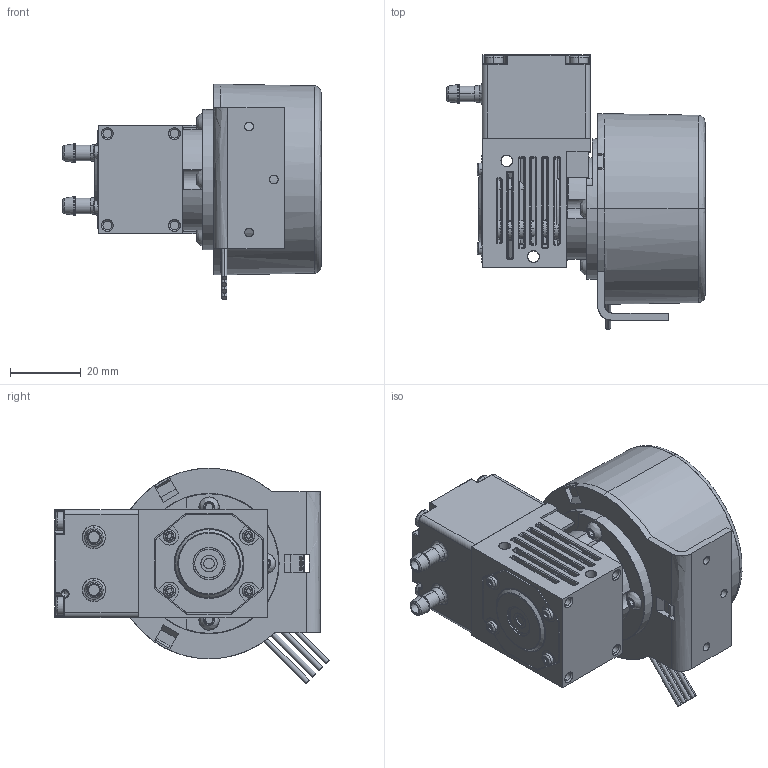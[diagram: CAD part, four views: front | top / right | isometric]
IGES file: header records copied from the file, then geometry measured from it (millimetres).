
Start section: SolidWorks IGES file using analytic representation for surfaces
Global section: file name: Q:\2016\03 Nautilus\41 6410 Shell Creation\Fertig\64100004\64100004-18-00.IGS; native system: SolidWorks 2017; preprocessor: SolidWorks 2017; author: hxs2830; date: 180316.132818; units: millimetre
Bounding box: 73.1 x 77.76 x 61.06 mm (x, y, z)
Surface area: 23726.1 mm2 (no closed solid volume)
Topology: 0 solids, 0 shells, 1419 faces, 11788 edges, 11703 vertices
Faces by surface type: bspline 1003, revolution 416
